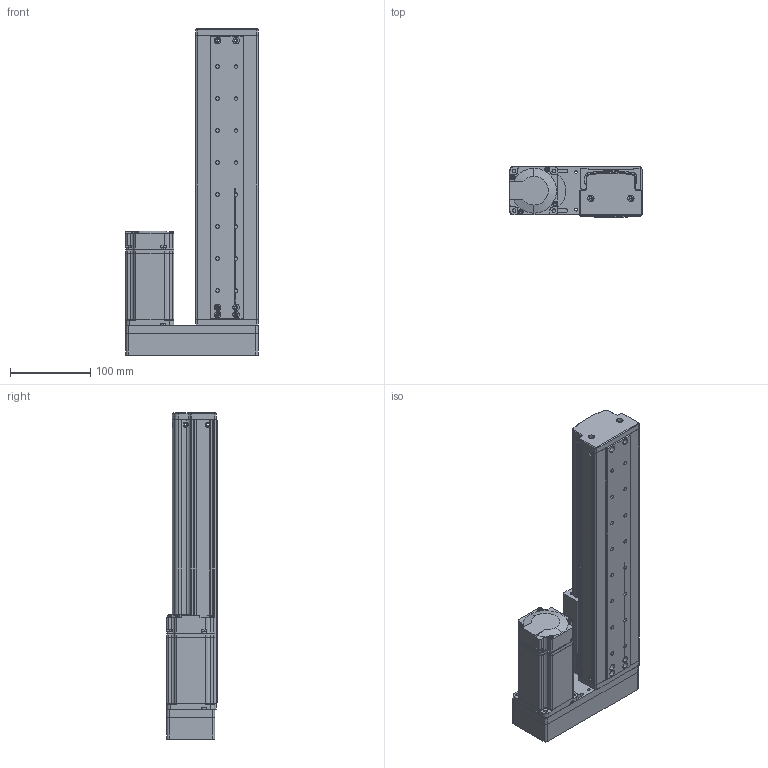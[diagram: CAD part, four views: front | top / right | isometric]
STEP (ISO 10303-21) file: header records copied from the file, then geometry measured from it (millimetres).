
FILE_DESCRIPTION (( 'STEP AP214' ), '1' );
FILE_NAME ('KSD75S-S200-MR-CM.STEP', '2019-10-18T07:12:54', ( '微软用户' ), ( '微软中国' ), 'SwSTEP 2.0', 'SolidWorks 2014', '' );
FILE_SCHEMA (( 'AUTOMOTIVE_DESIGN' ));
Length unit declared in the file: millimetre
Products named in the file (11): KSD75S-S200-MR-CM; MHMD042G1CA_2_03; 75宽模组保护罩左右折; 75宽马达安装板连板左右折丝杆; 綴傷啣 ; ヶ傷啣; 75裔啣-200俴最; 75遵耀郪耜啣-200俴最; 75遵賑雄釱; MGW15H賑寢200俴最 ; MGW15H賑寢200俴最
Assembly tree (11 placements, depth 3):
  KSD75S-S200-MR-CM
    MGW15H賑寢200俴最 
      MGW15H賑寢200俴最
    75遵賑雄釱
    75遵耀郪耜啣-200俴最  x2
    75裔啣-200俴最
    ヶ傷啣
    綴傷啣 
    75宽马达安装板连板左右折丝杆
    75宽模组保护罩左右折
    MHMD042G1CA_2_03
Bounding box: 165 x 63 x 407.5 mm (x, y, z)
Volume: 643839.7 mm3; surface area: 401321.4 mm2
Topology: 9 solids, 10 shells, 1091 faces, 3116 edges, 2021 vertices
Faces by surface type: cylinder 553, plane 391, cone 129, bspline 18
Entity records: 40806 total; most frequent: CARTESIAN_POINT 7980, DIRECTION 6038, ORIENTED_EDGE 5640, EDGE_CURVE 2891, AXIS2_PLACEMENT_3D 2234, VERTEX_POINT 1915, LINE 1570, VECTOR 1570
